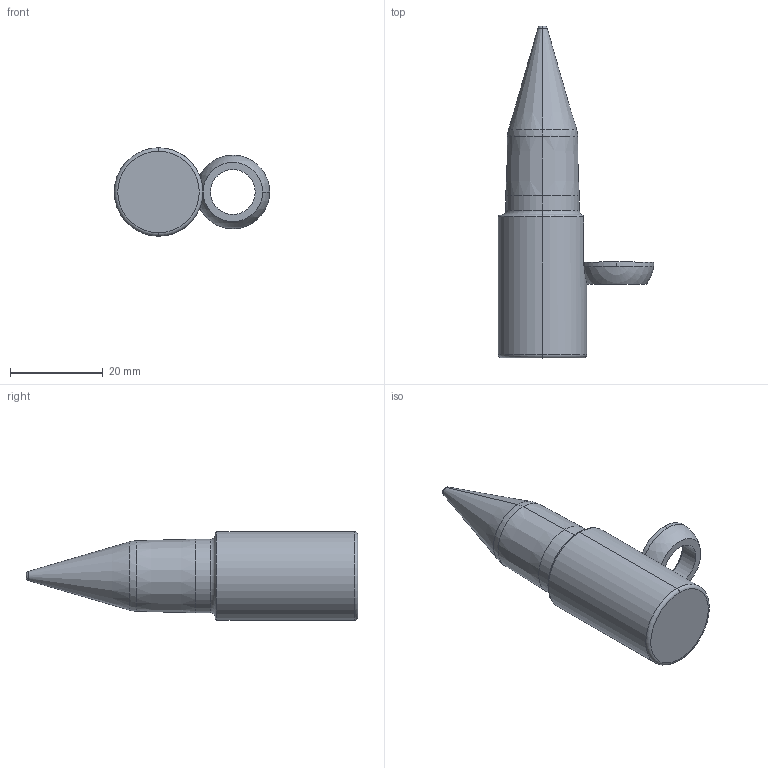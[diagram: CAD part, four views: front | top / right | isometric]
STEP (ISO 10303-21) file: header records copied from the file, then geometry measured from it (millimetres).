
FILE_DESCRIPTION (( 'STEP AP214' ), '1' );
FILE_NAME ('PA-T-.625-.125-0.5-3-A-F1.STEP', '2019-05-08T17:38:27', ( '' ), ( '' ), 'SwSTEP 2.0', 'SolidWorks 2017', '' );
FILE_SCHEMA (( 'AUTOMOTIVE_DESIGN' ));
Length unit declared in the file: inch
Products named in the file (3): SLPilot-PA-T-E_PA-T-.625-.125-0.5-3-A-F1; SLRadiusWasher_RadiusWasher-E; PA-T-.625-.125-0.5-3-A-F1
Assembly tree (2 placements, depth 2):
  PA-T-.625-.125-0.5-3-A-F1
    SLPilot-PA-T-E_PA-T-.625-.125-0.5-3-A-F1
    SLRadiusWasher_RadiusWasher-E
Bounding box: 33.46 x 71.45 x 19.05 mm (x, y, z)
Volume: 14095.6 mm3; surface area: 4213.5 mm2
Topology: 2 solids, 2 shells, 35 faces, 77 edges, 46 vertices
Faces by surface type: torus 11, cylinder 9, cone 6, plane 5, sphere 4
Entity records: 1168 total; most frequent: CARTESIAN_POINT 234, DIRECTION 208, ORIENTED_EDGE 154, AXIS2_PLACEMENT_3D 96, EDGE_CURVE 77, CIRCLE 56, VERTEX_POINT 46, EDGE_LOOP 37
